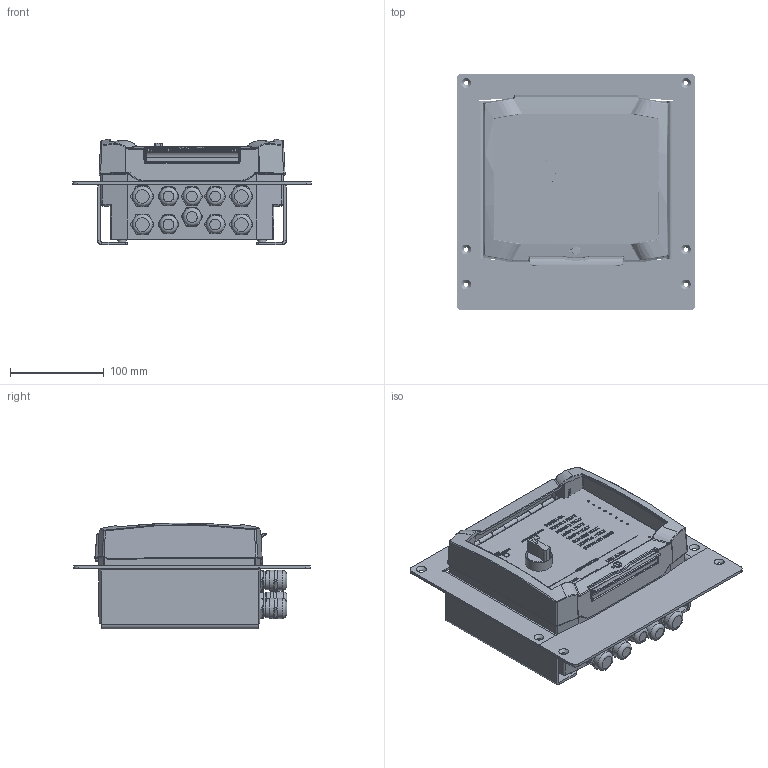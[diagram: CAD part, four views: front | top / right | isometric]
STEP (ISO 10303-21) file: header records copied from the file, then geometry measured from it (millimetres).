
FILE_DESCRIPTION(/* description */ ('FS12'),/* implementation_level */ '2;1');
FILE_NAME(/* name */ 'C:\Users\tokti\AppData\Local\Temp\ygal4axh.ina\2878010012383.stp',/* time_stamp */ '2023-09-28T22:38:10+02:00',/* author */ ('thp'),/* organization */ (''),/* preprocessor_version */ 'ST-DEVELOPER v18.1',/* originating_system */ 'Autodesk Inventor 2020',/* authorisation */ '');
FILE_SCHEMA (('AUTOMOTIVE_DESIGN { 1 0 10303 214 3 1 1 }'));
Products named in the file (9): 2878010012383; 2878300012382; 2878350012384; 287898010012288; 287898010012289; 287898990012287; 287899020012272; 287898030012282; 287898030012297
Assembly tree (16 placements, depth 2):
  2878010012383
    2878300012382
    2878350012384
    287898010012288
    287898010012289
    287898030012297  x6
    287898990012287
    287899020012272
    287898030012282  x4
Bounding box: 255 x 253 x 113.14 mm (x, y, z)
Volume: 732340.2 mm3; surface area: 540106.5 mm2
Topology: 19 solids, 19 shells, 6893 faces, 18325 edges, 11902 vertices
Faces by surface type: plane 4413, bspline 1067, cylinder 837, cone 397, sphere 121, torus 58
Full cylindrical faces by diameter (mm): 2 x2, 2.15 x8, 3 x1, 3.242 x4, 4 x3, 5.2 x4, 5.462 x1, 6 x6, 6.95 x1, 13.93 x6, 15.968 x6, 17.16 x6, 18.3 x4, 18.5 x6, 18.96 x4, 19.6 x12, 19.85 x4, 20.3 x4, 21.7 x8, 21.75 x1, 28.5 x1
Entity records: 242547 total; most frequent: CARTESIAN_POINT 84649, ORIENTED_EDGE 34096, DIRECTION 28077, EDGE_CURVE 17048, LINE 12275, VECTOR 12275, VERTEX_POINT 11143, AXIS2_PLACEMENT_3D 7901
